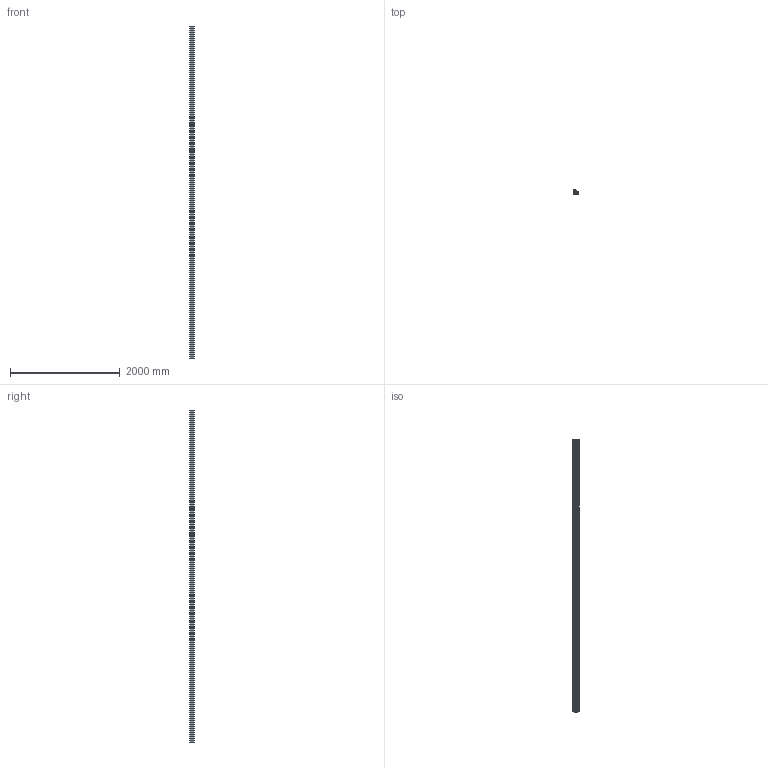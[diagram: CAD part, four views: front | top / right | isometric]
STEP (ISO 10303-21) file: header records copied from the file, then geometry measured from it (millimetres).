
FILE_DESCRIPTION (( 'STEP AP203' ), '1' );
FILE_NAME ('20210800_Profil 8 40x80x80L.step', '2021-06-25T09:16:08', ( '' ), ( '' ), 'SwSTEP 2.0', 'SolidWorks 2021', '' );
FILE_SCHEMA (( 'CONFIG_CONTROL_DESIGN' ));
Length unit declared in the file: millimetre
Products named in the file (1): 20210800_Profil 8 40x80x80L
Bounding box: 80 x 80 x 6060 mm (x, y, z)
Volume: 10771663.5 mm3; surface area: 6463080.1 mm2
Topology: 1 solids, 1 shells, 318 faces, 948 edges, 632 vertices
Faces by surface type: cylinder 170, plane 148
Entity records: 10909 total; most frequent: DIRECTION 1926, CARTESIAN_POINT 1899, ORIENTED_EDGE 1896, EDGE_CURVE 948, AXIS2_PLACEMENT_3D 659, VERTEX_POINT 632, LINE 608, VECTOR 608
